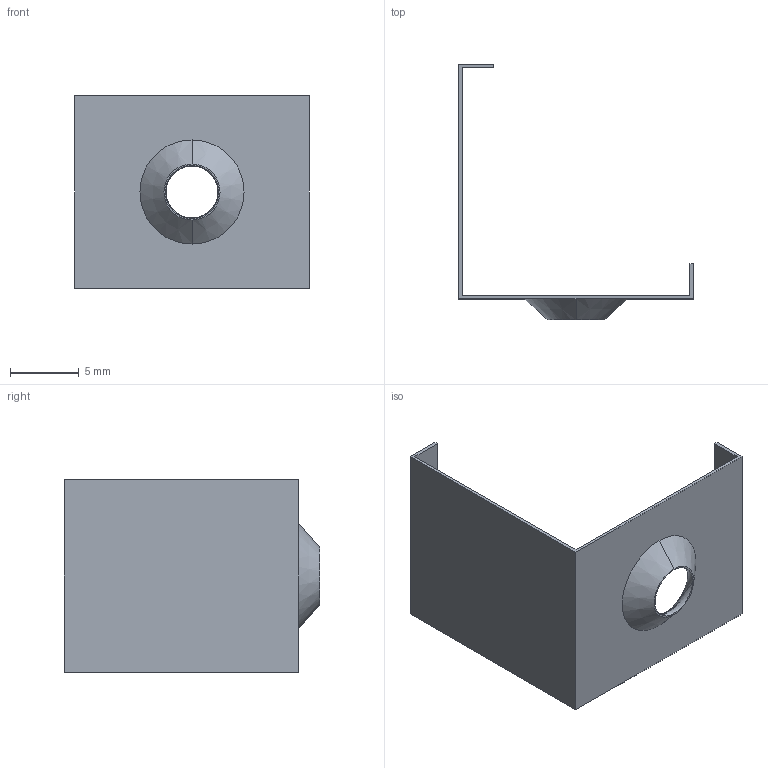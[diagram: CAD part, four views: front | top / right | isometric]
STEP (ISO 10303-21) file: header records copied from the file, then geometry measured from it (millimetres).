
FILE_DESCRIPTION (( 'STEP AP214' ), '1' );
FILE_NAME ('ac2 clip.STEP', '2023-07-21T14:24:09', ( '' ), ( '' ), 'SwSTEP 2.0', 'SolidWorks 2018', '' );
FILE_SCHEMA (( 'AUTOMOTIVE_DESIGN' ));
Length unit declared in the file: inch
Products named in the file (1): ac2 clip
Bounding box: 17.02 x 18.54 x 13.97 mm (x, y, z)
Volume: 141 mm3; surface area: 1098.2 mm2
Topology: 1 solids, 1 shells, 17 faces, 42 edges, 28 vertices
Faces by surface type: plane 13, bspline 2, cone 2
Entity records: 614 total; most frequent: CARTESIAN_POINT 164, ORIENTED_EDGE 84, DIRECTION 80, EDGE_CURVE 42, LINE 32, VECTOR 32, VERTEX_POINT 28, AXIS2_PLACEMENT_3D 24
